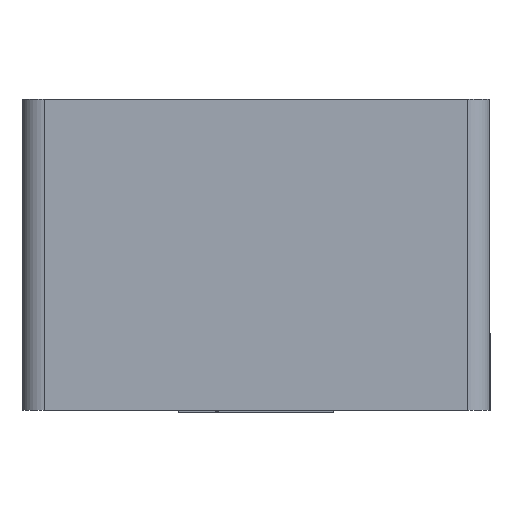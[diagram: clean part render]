
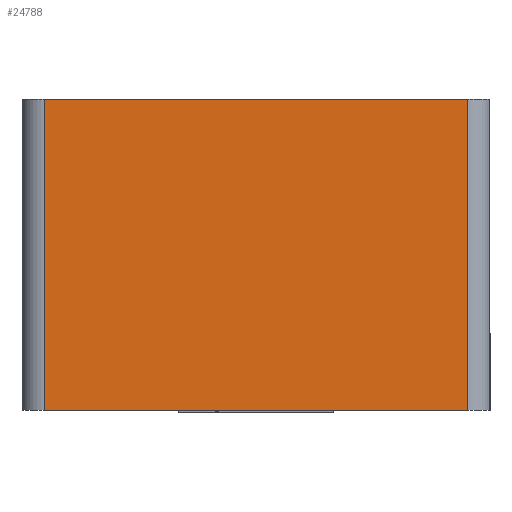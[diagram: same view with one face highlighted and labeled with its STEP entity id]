
A CAD part, left-side view. The second image highlights one B-rep face of the part: STEP entity #24788.
In plain terms, the highlighted planar face has unit normal (-1, 0, 0).
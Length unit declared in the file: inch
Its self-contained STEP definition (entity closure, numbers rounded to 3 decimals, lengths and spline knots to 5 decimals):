
#337 = DIRECTION ( 'NONE',  ( 1., 0., 0. ) ) ;
#976 = ORIENTED_EDGE ( 'NONE', *, *, #4118, .T. ) ;
#1104 = LINE ( 'NONE', #12277, #15480 ) ;
#1350 = ORIENTED_EDGE ( 'NONE', *, *, #20873, .F. ) ;
#1422 = EDGE_CURVE ( 'NONE', #5335, #4659, #13194, .T. ) ;
#1706 = VECTOR ( 'NONE', #6705, 39.37008 ) ;
#2811 = CARTESIAN_POINT ( 'NONE',  ( -2.259, 0.94, -0.65625 ) ) ;
#4118 = EDGE_CURVE ( 'NONE', #4659, #19956, #18802, .T. ) ;
#4659 = VERTEX_POINT ( 'NONE', #9907 ) ;
#5335 = VERTEX_POINT ( 'NONE', #11541 ) ;
#5588 = ORIENTED_EDGE ( 'NONE', *, *, #19110, .T. ) ;
#5940 = CARTESIAN_POINT ( 'NONE',  ( -2.259, -0.85, 0.59375 ) ) ;
#6702 = DIRECTION ( 'NONE',  ( 0., 0., -1. ) ) ;
#6705 = DIRECTION ( 'NONE',  ( 0., -1., 0. ) ) ;
#7309 = VECTOR ( 'NONE', #10935, 39.37008 ) ;
#9907 = CARTESIAN_POINT ( 'NONE',  ( -2.259, -0.85, -0.65625 ) ) ;
#10935 = DIRECTION ( 'NONE',  ( 0., 0., 1. ) ) ;
#11115 = CARTESIAN_POINT ( 'NONE',  ( -2.259, -0.85, 0.65625 ) ) ;
#11541 = CARTESIAN_POINT ( 'NONE',  ( -2.259, 0.85, -0.65625 ) ) ;
#12277 = CARTESIAN_POINT ( 'NONE',  ( -2.259, 0.94, 0.59375 ) ) ;
#12519 = CARTESIAN_POINT ( 'NONE',  ( -2.259, 0.85, 0.65625 ) ) ;
#13194 = LINE ( 'NONE', #2811, #1706 ) ;
#14147 = DIRECTION ( 'NONE',  ( 0., -1., 0. ) ) ;
#14275 = VECTOR ( 'NONE', #6702, 39.37008 ) ;
#14443 = CARTESIAN_POINT ( 'NONE',  ( -2.259, 0.94, 0.65625 ) ) ;
#14577 = VERTEX_POINT ( 'NONE', #19019 ) ;
#14626 = DIRECTION ( 'NONE',  ( 0., 0., -1. ) ) ;
#15480 = VECTOR ( 'NONE', #14147, 39.37008 ) ;
#15785 = ORIENTED_EDGE ( 'NONE', *, *, #1422, .T. ) ;
#18802 = LINE ( 'NONE', #11115, #7309 ) ;
#19019 = CARTESIAN_POINT ( 'NONE',  ( -2.259, 0.85, 0.59375 ) ) ;
#19110 = EDGE_CURVE ( 'NONE', #14577, #5335, #19703, .T. ) ;
#19703 = LINE ( 'NONE', #12519, #14275 ) ;
#19956 = VERTEX_POINT ( 'NONE', #5940 ) ;
#20873 = EDGE_CURVE ( 'NONE', #14577, #19956, #1104, .T. ) ;
#21451 = FACE_OUTER_BOUND ( 'NONE', #25994, .T. ) ;
#24580 = PLANE ( 'NONE',  #25002 ) ;
#24788 = ADVANCED_FACE ( 'NONE', ( #21451 ), #24580, .F. ) ;
#25002 = AXIS2_PLACEMENT_3D ( 'NONE', #14443, #337, #14626 ) ;
#25994 = EDGE_LOOP ( 'NONE', ( #976, #1350, #5588, #15785 ) ) ;
